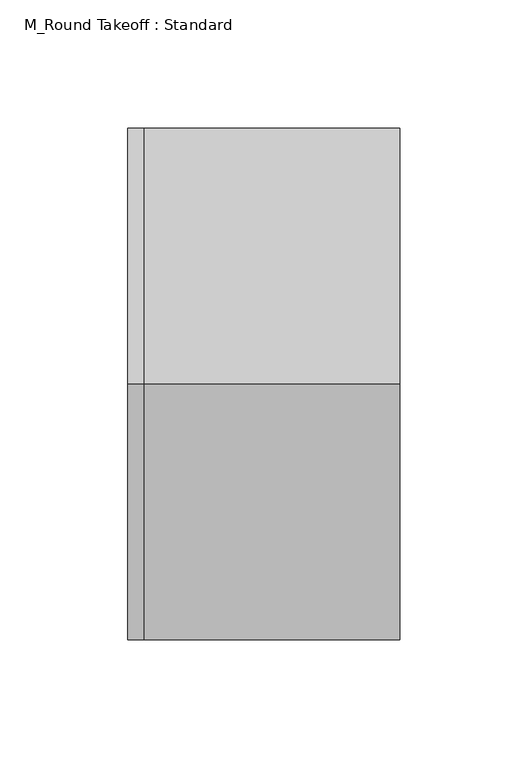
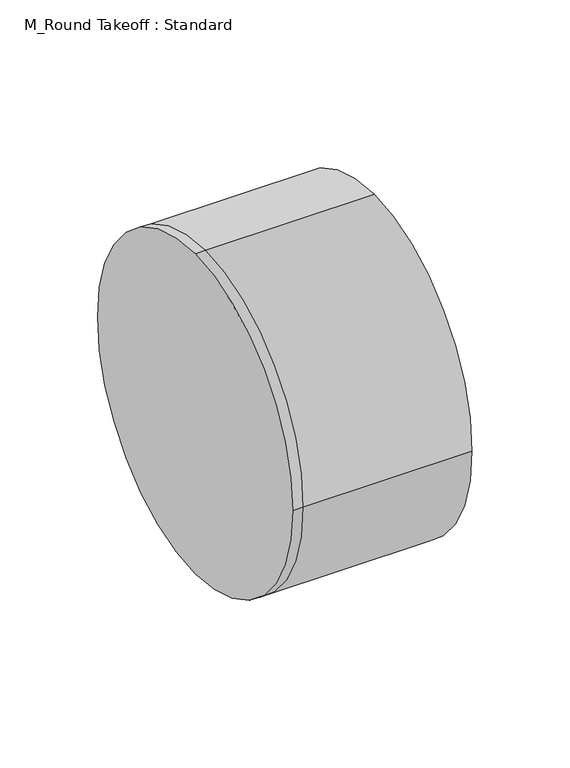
"""IFC4 building model written with IfcOpenShell, lengths in millimetres: duct fitting geometry, M_Round Takeoff : Standard."""

from ifc_helpers import new_model, si_unit, frame, origin, place, context, project, spatial, circle_curve, source, transform, mapped, element, save
from ifc_brep_helpers import plane_surface, cylinder_surface, advanced_brep


def m_round_takeoff_standard_81095b1e(model_context):
    return source(origin(), model_context, "Body", "AdvancedBrep", [
        advanced_brep(
        [(-6.0961503, 0.0, 100.0), (-6.0961503, 100.0, 0.0), (-6.0961503, 0.0, -100.0), (-6.0961503, -100.0, 0.0), (0.0, 0.0, 100.0), (0.0, 100.0, 0.0), (0.0, 0.0, -100.0), (0.0, -100.0, 0.0), (100.0001503, 0.0, 100.0), (100.0001503, -100.0, 0.0), (100.0001503, 0.0, -100.0), (100.0001503, 100.0, 0.0)],
        [
            (0, 1, circle_curve(frame((-6.0961503, 0.0, 0.0), z_axis=(-1.0, 0.0, 0.0), x_axis=(0.0, 1.0, 0.0)), 100.0)),
            (1, 2, circle_curve(frame((-6.0961503, 0.0, 0.0), z_axis=(-1.0, 0.0, 0.0), x_axis=(0.0, 1.0, 0.0)), 100.0)),
            (2, 3, circle_curve(frame((-6.0961503, 0.0, 0.0), z_axis=(-1.0, 0.0, 0.0), x_axis=(0.0, 1.0, 0.0)), 100.0)),
            (3, 0, circle_curve(frame((-6.0961503, 0.0, 0.0), z_axis=(-1.0, 0.0, 0.0), x_axis=(0.0, 1.0, 0.0)), 100.0)),
            (0, 4),
            (4, 5, circle_curve(frame((0.0, 0.0, 0.0), z_axis=(-1.0, 0.0, 0.0), x_axis=(0.0, 1.0, 0.0)), 100.0)),
            (5, 1),
            (5, 6, circle_curve(frame((0.0, 0.0, 0.0), z_axis=(-1.0, 0.0, 0.0), x_axis=(0.0, 1.0, 0.0)), 100.0)),
            (6, 2),
            (6, 7, circle_curve(frame((0.0, 0.0, 0.0), z_axis=(-1.0, 0.0, 0.0), x_axis=(0.0, 1.0, 0.0)), 100.0)),
            (7, 3),
            (7, 4, circle_curve(frame((0.0, 0.0, 0.0), z_axis=(-1.0, 0.0, 0.0), x_axis=(0.0, 1.0, 0.0)), 100.0)),
            (8, 9, circle_curve(frame((100.0001503, 0.0, 0.0), z_axis=(1.0, 0.0, 0.0), x_axis=(0.0, 1.0, 0.0)), 100.0)),
            (9, 10, circle_curve(frame((100.0001503, 0.0, 0.0), z_axis=(1.0, 0.0, 0.0), x_axis=(0.0, 1.0, 0.0)), 100.0)),
            (10, 11, circle_curve(frame((100.0001503, 0.0, 0.0), z_axis=(1.0, 0.0, 0.0), x_axis=(0.0, 1.0, 0.0)), 100.0)),
            (11, 8, circle_curve(frame((100.0001503, 0.0, 0.0), z_axis=(1.0, 0.0, 0.0), x_axis=(0.0, 1.0, 0.0)), 100.0)),
            (11, 5),
            (4, 8),
            (10, 6),
            (9, 7),
        ],
        [
            plane_surface(frame((-6.0961503, 0.0, 0.0), z_axis=(-1.0, 0.0, 0.0), x_axis=(0.0, 0.0, 1.0))),
            cylinder_surface(frame((-6.0961503, 0.0, 0.0), z_axis=(-1.0, 0.0, 0.0), x_axis=(0.0, 1.0, 0.0)), 100.0),
            plane_surface(frame((100.0001503, 0.0, 0.0), z_axis=(1.0, 0.0, 0.0), x_axis=(0.0, 0.0, 1.0))),
            cylinder_surface(frame((0.0, 0.0, 0.0), z_axis=(-1.0, 0.0, 0.0), x_axis=(0.0, 1.0, 0.0)), 100.0),
        ],
        [
            (0, [[1, 2, 3, 4]]),
            (1, [[-1, 5, 6, 7]]),
            (1, [[-2, -7, 8, 9]]),
            (1, [[-3, -9, 10, 11]]),
            (1, [[-4, -11, 12, -5]]),
            (2, [[13, 14, 15, 16]]),
            (3, [[-16, 17, -6, 18]]),
            (3, [[-15, 19, -8, -17]]),
            (3, [[-14, 20, -10, -19]]),
            (3, [[-13, -18, -12, -20]]),
        ],
    ),
        advanced_brep(
        [(100.0001503, 0.0, 100.0), (100.0001503, -100.0, 0.0), (100.0001503, 0.0, -100.0), (100.0001503, 100.0, 0.0), (0.0, 100.0, 0.0), (0.0, 0.0, 100.0), (0.0, 0.0, -100.0), (0.0, -100.0, 0.0), (-6.0961503, 0.0, 100.0), (-6.0961503, 100.0, 0.0), (-6.0961503, 0.0, -100.0), (-6.0961503, -100.0, 0.0)],
        [
            (0, 1, circle_curve(frame((100.0001503, 0.0, 0.0), z_axis=(1.0, 0.0, 0.0), x_axis=(0.0, 1.0, 0.0)), 100.0)),
            (1, 2, circle_curve(frame((100.0001503, 0.0, 0.0), z_axis=(1.0, 0.0, 0.0), x_axis=(0.0, 1.0, 0.0)), 100.0)),
            (2, 3, circle_curve(frame((100.0001503, 0.0, 0.0), z_axis=(1.0, 0.0, 0.0), x_axis=(0.0, 1.0, 0.0)), 100.0)),
            (3, 0, circle_curve(frame((100.0001503, 0.0, 0.0), z_axis=(1.0, 0.0, 0.0), x_axis=(0.0, 1.0, 0.0)), 100.0)),
            (3, 4),
            (4, 5, circle_curve(frame((0.0, 0.0, 0.0), z_axis=(1.0, 0.0, 0.0), x_axis=(0.0, 1.0, 0.0)), 100.0)),
            (5, 0),
            (2, 6),
            (6, 4, circle_curve(frame((0.0, 0.0, 0.0), z_axis=(1.0, 0.0, 0.0), x_axis=(0.0, 1.0, 0.0)), 100.0)),
            (1, 7),
            (7, 6, circle_curve(frame((0.0, 0.0, 0.0), z_axis=(1.0, 0.0, 0.0), x_axis=(0.0, 1.0, 0.0)), 100.0)),
            (5, 7, circle_curve(frame((0.0, 0.0, 0.0), z_axis=(1.0, 0.0, 0.0), x_axis=(0.0, 1.0, 0.0)), 100.0)),
            (8, 9, circle_curve(frame((-6.0961503, 0.0, 0.0), z_axis=(-1.0, 0.0, 0.0), x_axis=(0.0, 1.0, 0.0)), 100.0)),
            (9, 10, circle_curve(frame((-6.0961503, 0.0, 0.0), z_axis=(-1.0, 0.0, 0.0), x_axis=(0.0, 1.0, 0.0)), 100.0)),
            (10, 11, circle_curve(frame((-6.0961503, 0.0, 0.0), z_axis=(-1.0, 0.0, 0.0), x_axis=(0.0, 1.0, 0.0)), 100.0)),
            (11, 8, circle_curve(frame((-6.0961503, 0.0, 0.0), z_axis=(-1.0, 0.0, 0.0), x_axis=(0.0, 1.0, 0.0)), 100.0)),
            (8, 5),
            (4, 9),
            (6, 10),
            (7, 11),
        ],
        [
            plane_surface(frame((100.0001503, 0.0, 0.0), z_axis=(1.0, 0.0, 0.0), x_axis=(0.0, 0.0, 1.0))),
            cylinder_surface(frame((0.0, 0.0, 0.0), z_axis=(-1.0, 0.0, 0.0), x_axis=(0.0, 1.0, 0.0)), 100.0),
            plane_surface(frame((-6.0961503, 0.0, 0.0), z_axis=(-1.0, 0.0, 0.0), x_axis=(0.0, 0.0, 1.0))),
            cylinder_surface(frame((-6.0961503, 0.0, 0.0), z_axis=(-1.0, 0.0, 0.0), x_axis=(0.0, 1.0, 0.0)), 100.0),
        ],
        [
            (0, [[1, 2, 3, 4]]),
            (1, [[-4, 5, 6, 7]]),
            (1, [[-3, 8, 9, -5]]),
            (1, [[-2, 10, 11, -8]]),
            (1, [[-1, -7, 12, -10]]),
            (2, [[13, 14, 15, 16]]),
            (3, [[-13, 17, -6, 18]]),
            (3, [[-14, -18, -9, 19]]),
            (3, [[-15, -19, -11, 20]]),
            (3, [[-16, -20, -12, -17]]),
        ],
    ),
        advanced_brep(
        [(-6.0961503, 0.0, 100.0), (-6.0961503, 100.0, 0.0), (-6.0961503, 0.0, -100.0), (-6.0961503, -100.0, 0.0), (0.0, 0.0, 100.0), (0.0, 100.0, 0.0), (0.0, 0.0, -100.0), (0.0, -100.0, 0.0), (100.0001503, 0.0, 100.0), (100.0001503, -100.0, 0.0), (100.0001503, 0.0, -100.0), (100.0001503, 100.0, 0.0)],
        [
            (0, 1, circle_curve(frame((-6.0961503, 0.0, 0.0), z_axis=(-1.0, 0.0, 0.0), x_axis=(0.0, 1.0, 0.0)), 100.0)),
            (1, 2, circle_curve(frame((-6.0961503, 0.0, 0.0), z_axis=(-1.0, 0.0, 0.0), x_axis=(0.0, 1.0, 0.0)), 100.0)),
            (2, 3, circle_curve(frame((-6.0961503, 0.0, 0.0), z_axis=(-1.0, 0.0, 0.0), x_axis=(0.0, 1.0, 0.0)), 100.0)),
            (3, 0, circle_curve(frame((-6.0961503, 0.0, 0.0), z_axis=(-1.0, 0.0, 0.0), x_axis=(0.0, 1.0, 0.0)), 100.0)),
            (0, 4),
            (4, 5, circle_curve(frame((0.0, 0.0, 0.0), z_axis=(-1.0, 0.0, 0.0), x_axis=(0.0, 1.0, 0.0)), 100.0)),
            (5, 1),
            (5, 6, circle_curve(frame((0.0, 0.0, 0.0), z_axis=(-1.0, 0.0, 0.0), x_axis=(0.0, 1.0, 0.0)), 100.0)),
            (6, 2),
            (6, 7, circle_curve(frame((0.0, 0.0, 0.0), z_axis=(-1.0, 0.0, 0.0), x_axis=(0.0, 1.0, 0.0)), 100.0)),
            (7, 3),
            (7, 4, circle_curve(frame((0.0, 0.0, 0.0), z_axis=(-1.0, 0.0, 0.0), x_axis=(0.0, 1.0, 0.0)), 100.0)),
            (8, 9, circle_curve(frame((100.0001503, 0.0, 0.0), z_axis=(1.0, 0.0, 0.0), x_axis=(0.0, 1.0, 0.0)), 100.0)),
            (9, 10, circle_curve(frame((100.0001503, 0.0, 0.0), z_axis=(1.0, 0.0, 0.0), x_axis=(0.0, 1.0, 0.0)), 100.0)),
            (10, 11, circle_curve(frame((100.0001503, 0.0, 0.0), z_axis=(1.0, 0.0, 0.0), x_axis=(0.0, 1.0, 0.0)), 100.0)),
            (11, 8, circle_curve(frame((100.0001503, 0.0, 0.0), z_axis=(1.0, 0.0, 0.0), x_axis=(0.0, 1.0, 0.0)), 100.0)),
            (11, 5),
            (4, 8),
            (10, 6),
            (9, 7),
        ],
        [
            plane_surface(frame((-6.0961503, 0.0, 0.0), z_axis=(-1.0, 0.0, 0.0), x_axis=(0.0, 0.0, 1.0))),
            cylinder_surface(frame((-6.0961503, 0.0, 0.0), z_axis=(-1.0, 0.0, 0.0), x_axis=(0.0, 1.0, 0.0)), 100.0),
            plane_surface(frame((100.0001503, 0.0, 0.0), z_axis=(1.0, 0.0, 0.0), x_axis=(0.0, 0.0, 1.0))),
            cylinder_surface(frame((0.0, 0.0, 0.0), z_axis=(-1.0, 0.0, 0.0), x_axis=(0.0, 1.0, 0.0)), 100.0),
        ],
        [
            (0, [[1, 2, 3, 4]]),
            (1, [[-1, 5, 6, 7]]),
            (1, [[-2, -7, 8, 9]]),
            (1, [[-3, -9, 10, 11]]),
            (1, [[-4, -11, 12, -5]]),
            (2, [[13, 14, 15, 16]]),
            (3, [[-16, 17, -6, 18]]),
            (3, [[-15, 19, -8, -17]]),
            (3, [[-14, 20, -10, -19]]),
            (3, [[-13, -18, -12, -20]]),
        ],
    ),
    ])


if __name__ == "__main__":
    model = new_model("IFC4")
    model_context = context("Model", 3, world=origin())
    ifc_project = project(units=[si_unit("LENGTHUNIT", "METRE", prefix="MILLI")], contexts=[model_context])
    site = spatial("IfcSite", under=ifc_project)
    building = spatial("IfcBuilding", under=site)
    placement = place(None, origin())
    m_round_takeoff_standard_shape = m_round_takeoff_standard_81095b1e(model_context)
    element("IfcDuctFitting", 1, ObjectType="M_Round Takeoff : Standard", at=placement, inside=building, context=model_context, shape_type="MappedRepresentation", body=[
        mapped(m_round_takeoff_standard_shape, transform((0.0, 0.0, 0.0), x_axis=(1.0, 0.0, 0.0), y_axis=(0.0, 1.0, 0.0), z_axis=(0.0, 0.0, 1.0))),
    ])
    save(model, "model.ifc")
